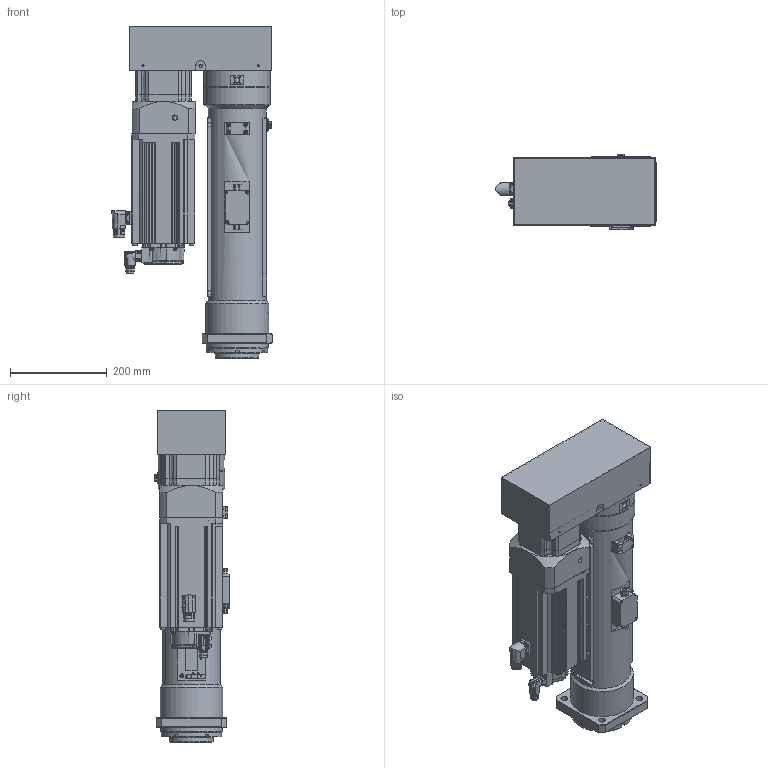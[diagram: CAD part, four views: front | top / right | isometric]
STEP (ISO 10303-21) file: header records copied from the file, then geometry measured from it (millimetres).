
FILE_DESCRIPTION( ('This file contains a STEP AP42 implementation' ,'as created by ZW3D STEP Interface translator.') ,'2;1' );
FILE_NAME( 'OACIS-DC-P060-P070-300-155-A6V400_V20.01.stp' ,'25 715.141212', (''), ('ZWCAD Software Co.'), 'Version 1.0', 'ZW3D to STEP translator', '' );
FILE_SCHEMA(('AUTOMOTIVE_DESIGN { 1 0 10303 214 1 1 1 1 }'));
Length unit declared in the file: millimetre
Products named in the file (2): 0; OACIS-P050-300-200-A6V400_ASM_V20.01
Bounding box: 331.5 x 155 x 686.5 mm (x, y, z)
Volume: 12083550.9 mm3; surface area: 1845379.1 mm2
Topology: 35 solids, 43 shells, 2747 faces, 6996 edges, 4504 vertices
Faces by surface type: plane 1179, cylinder 1038, cone 298, bspline 152, torus 68, sphere 12
Full cylindrical faces by diameter (mm): 1.25 x12, 1.567 x4, 2 x1, 2.232 x6, 2.459 x1, 2.8 x1, 3.242 x3, 3.3 x83, 4.2 x4, 4.3 x26, 4.5 x14, 4.917 x20, 5 x1, 5.3 x4, 5.5 x5, 6 x12, 6.8 x41, 7 x4, 8 x30, 8.4 x8, 8.5 x4, 9 x22, 9.5 x4, 9.78 x8, 10 x7, 10.104 x4, 10.2 x16, 10.5 x4, 12 x1, 13.4 x1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
Entity records: 91234 total; most frequent: CARTESIAN_POINT 21287, DIRECTION 14128, ORIENTED_EDGE 13711, EDGE_CURVE 6905, AXIS2_PLACEMENT_3D 5318, VERTEX_POINT 4513, VECTOR 3492, LINE 3492
